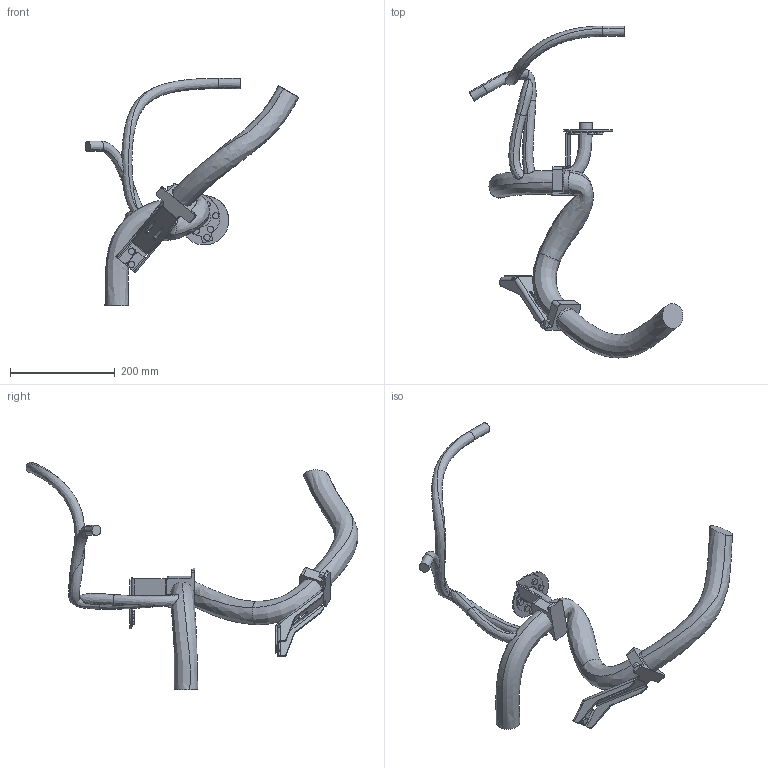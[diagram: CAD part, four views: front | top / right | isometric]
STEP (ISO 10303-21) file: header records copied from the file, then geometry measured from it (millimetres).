
FILE_DESCRIPTION (( 'STEP AP214' ), '1' );
FILE_NAME ('IRB6730-LID_220kg-290_OC_00_LINK01m_CABLE.step', '2026-05-26T09:10:35', ( '' ), ( '' ), 'SwSTEP 2.0', 'SolidWorks 2024', '' );
FILE_SCHEMA (( 'AUTOMOTIVE_DESIGN' ));
Length unit declared in the file: millimetre
Products named in the file (1): IRB6730-LID_220kg-290_OC_00_LINK01m_CABLE
Bounding box: 408.74 x 634.25 x 434.39 mm (x, y, z)
Volume: 1952623.1 mm3; surface area: 263816.3 mm2
Topology: 1 solids, 1 shells, 288 faces, 755 edges, 478 vertices
Faces by surface type: plane 147, cylinder 110, bspline 31
Entity records: 19984 total; most frequent: CARTESIAN_POINT 9818, ORIENTED_EDGE 1510, DIRECTION 1410, EDGE_CURVE 755, AXIS2_PLACEMENT_3D 495, VERTEX_POINT 478, VECTOR 420, LINE 420
